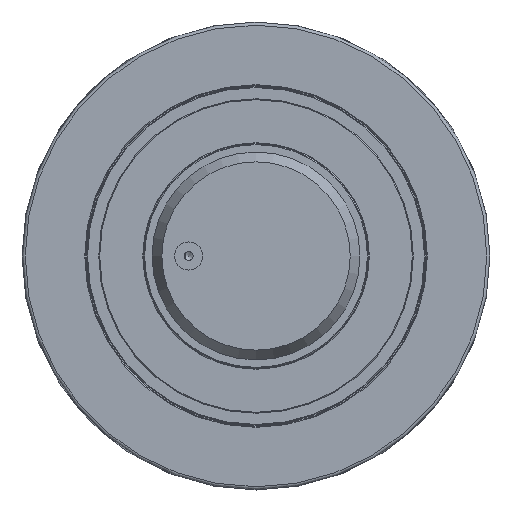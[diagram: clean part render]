
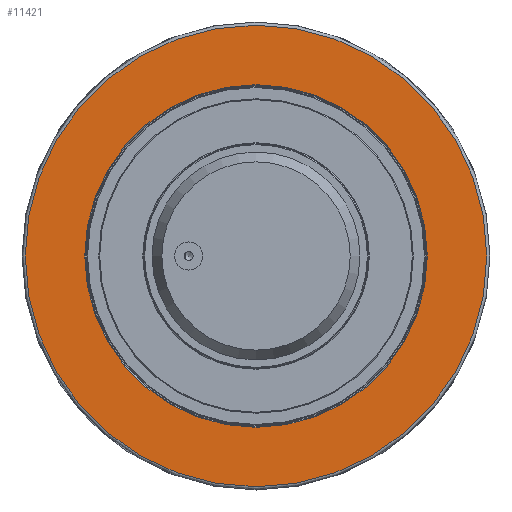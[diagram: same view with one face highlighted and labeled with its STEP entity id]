
A CAD part, left-side view. The second image highlights one B-rep face of the part: STEP entity #11421.
In plain terms, the highlighted planar face has unit normal (-1, 0, 0).
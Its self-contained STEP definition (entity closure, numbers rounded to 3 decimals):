
#1022=FACE_BOUND('',#2137,.T.);
#1090=PLANE('',#12888);
#1536=FACE_OUTER_BOUND('',#2136,.T.);
#2136=EDGE_LOOP('',(#8457,#8458));
#2137=EDGE_LOOP('',(#8459));
#3406=CIRCLE('',#12714,123.266);
#3407=CIRCLE('',#12715,123.266);
#3578=CIRCLE('',#12889,91.5);
#5011=VERTEX_POINT('',#20682);
#5012=VERTEX_POINT('',#20684);
#5183=VERTEX_POINT('',#21032);
#6135=EDGE_CURVE('',#5011,#5012,#3406,.T.);
#6136=EDGE_CURVE('',#5012,#5011,#3407,.T.);
#6309=EDGE_CURVE('',#5183,#5183,#3578,.T.);
#8457=ORIENTED_EDGE('',*,*,#6136,.F.);
#8458=ORIENTED_EDGE('',*,*,#6135,.F.);
#8459=ORIENTED_EDGE('',*,*,#6309,.F.);
#11421=ADVANCED_FACE('',(#1536,#1022),#1090,.T.);
#12714=AXIS2_PLACEMENT_3D('',#20685,#15646,#15647);
#12715=AXIS2_PLACEMENT_3D('',#20686,#15648,#15649);
#12888=AXIS2_PLACEMENT_3D('',#21031,#15996,#15997);
#12889=AXIS2_PLACEMENT_3D('',#21033,#15998,#15999);
#15646=DIRECTION('center_axis',(1.,0.,0.));
#15647=DIRECTION('ref_axis',(0.,0.,
-1.));
#15648=DIRECTION('center_axis',(1.,0.,0.));
#15649=DIRECTION('ref_axis',(0.,0.,
-1.));
#15996=DIRECTION('center_axis',(-1.,0.,0.));
#15997=DIRECTION('ref_axis',(0.,-1.,0.));
#15998=DIRECTION('center_axis',(-1.,0.,0.));
#15999=DIRECTION('ref_axis',(0.,0.,
-1.));
#20682=CARTESIAN_POINT('',(-13.722,-120.797,0.));
#20684=CARTESIAN_POINT('',(-13.722,2.469,123.266));
#20685=CARTESIAN_POINT('Origin',(-13.722,2.469,0.));
#20686=CARTESIAN_POINT('Origin',(-13.722,2.469,0.));
#21031=CARTESIAN_POINT('Origin',(-13.722,2.469,107.869));
#21032=CARTESIAN_POINT('',(-13.722,2.469,91.5));
#21033=CARTESIAN_POINT('Origin',(-13.722,2.469,0.));
